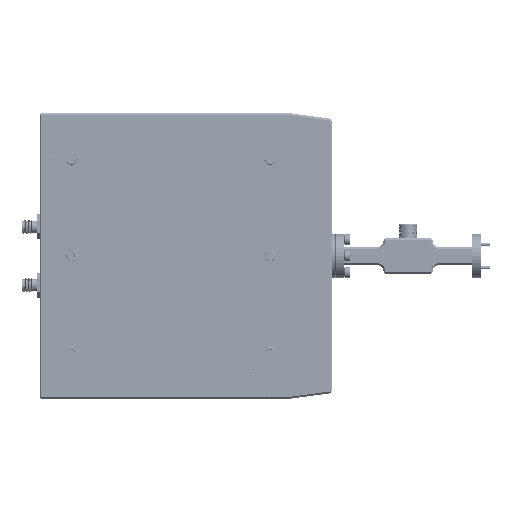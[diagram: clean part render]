
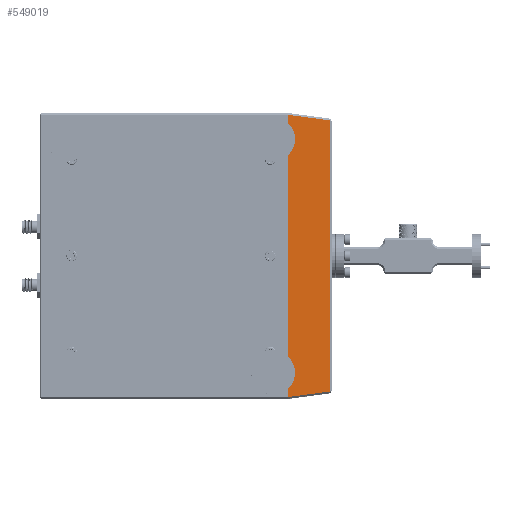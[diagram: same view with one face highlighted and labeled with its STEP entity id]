
A CAD part, top view. The second image highlights one B-rep face of the part: STEP entity #549019.
In plain terms, the highlighted planar face has unit normal (0, 0, 1).
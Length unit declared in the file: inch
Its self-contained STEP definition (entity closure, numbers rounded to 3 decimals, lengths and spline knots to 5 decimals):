
#60480 = B_SPLINE_CURVE_WITH_KNOTS ( 'NONE', 3,
 ( #681891, #336996, #545504, #273352 ),
 .UNSPECIFIED., .F., .F.,
 ( 4, 4 ),
 ( 0.00618, 0.99382 ),
 .UNSPECIFIED. ) ;
#65197 = DIRECTION ( 'NONE',  ( -0.991, 0.132, 0. ) ) ;
#73118 = CARTESIAN_POINT ( 'NONE',  ( 2., -2.41698, 0.25 ) ) ;
#92121 = CARTESIAN_POINT ( 'NONE',  ( 2.72, -2.32098, 0.25 ) ) ;
#98232 = EDGE_LOOP ( 'NONE', ( #146580, #598640, #855071, #282220 ) ) ;
#146580 = ORIENTED_EDGE ( 'NONE', *, *, #259820, .T. ) ;
#221027 = FACE_OUTER_BOUND ( 'NONE', #98232, .T. ) ;
#229929 = PLANE ( 'NONE',  #252386 ) ;
#230616 = CARTESIAN_POINT ( 'NONE',  ( 2., 2.41698, 0.25 ) ) ;
#252386 = AXIS2_PLACEMENT_3D ( 'NONE', #506594, #561185, #357135 ) ;
#256375 = EDGE_CURVE ( 'NONE', #423735, #569918, #609633, .T. ) ;
#259820 = EDGE_CURVE ( 'NONE', #281231, #423735, #452114, .T. ) ;
#273352 = CARTESIAN_POINT ( 'NONE',  ( 2., -2.41698, 0.25 ) ) ;
#281231 = VERTEX_POINT ( 'NONE', #92121 ) ;
#282220 = ORIENTED_EDGE ( 'NONE', *, *, #378721, .T. ) ;
#293569 = EDGE_CURVE ( 'NONE', #569918, #400452, #60480, .T. ) ;
#336996 = CARTESIAN_POINT ( 'NONE',  ( 2., 0.80566, 0.25 ) ) ;
#357135 = DIRECTION ( 'NONE',  ( 1., 0., 0. ) ) ;
#378721 = EDGE_CURVE ( 'NONE', #400452, #281231, #668029, .T. ) ;
#400452 = VERTEX_POINT ( 'NONE', #73118 ) ;
#401904 = CARTESIAN_POINT ( 'NONE',  ( 2.72, 0., 0.25 ) ) ;
#423735 = VERTEX_POINT ( 'NONE', #898339 ) ;
#432467 = VECTOR ( 'NONE', #65197, 39.37008 ) ;
#452114 = LINE ( 'NONE', #401904, #464859 ) ;
#464859 = VECTOR ( 'NONE', #815015, 39.37008 ) ;
#506594 = CARTESIAN_POINT ( 'NONE',  ( 2., 0., 0.25 ) ) ;
#531643 = CARTESIAN_POINT ( 'NONE',  ( 2.31663, -2.37476, 0.25 ) ) ;
#545504 = CARTESIAN_POINT ( 'NONE',  ( 2., -0.80566, 0.25 ) ) ;
#549019 = ADVANCED_FACE ( 'NONE', ( #221027 ), #229929, .F. ) ;
#561185 = DIRECTION ( 'NONE',  ( 0., 0., -1. ) ) ;
#569918 = VERTEX_POINT ( 'NONE', #230616 ) ;
#598640 = ORIENTED_EDGE ( 'NONE', *, *, #256375, .T. ) ;
#609633 = LINE ( 'NONE', #686844, #432467 ) ;
#668029 = LINE ( 'NONE', #531643, #828416 ) ;
#681891 = CARTESIAN_POINT ( 'NONE',  ( 2., 2.41698, 0.25 ) ) ;
#686844 = CARTESIAN_POINT ( 'NONE',  ( 2.31663, 2.37476, 0.25 ) ) ;
#799713 = DIRECTION ( 'NONE',  ( 0.991, 0.132, 0. ) ) ;
#815015 = DIRECTION ( 'NONE',  ( 0., 1., 0. ) ) ;
#828416 = VECTOR ( 'NONE', #799713, 39.37008 ) ;
#855071 = ORIENTED_EDGE ( 'NONE', *, *, #293569, .T. ) ;
#898339 = CARTESIAN_POINT ( 'NONE',  ( 2.72, 2.32098, 0.25 ) ) ;
